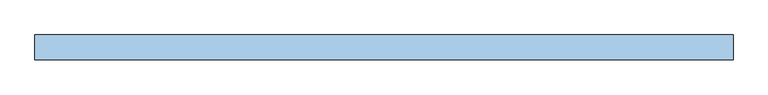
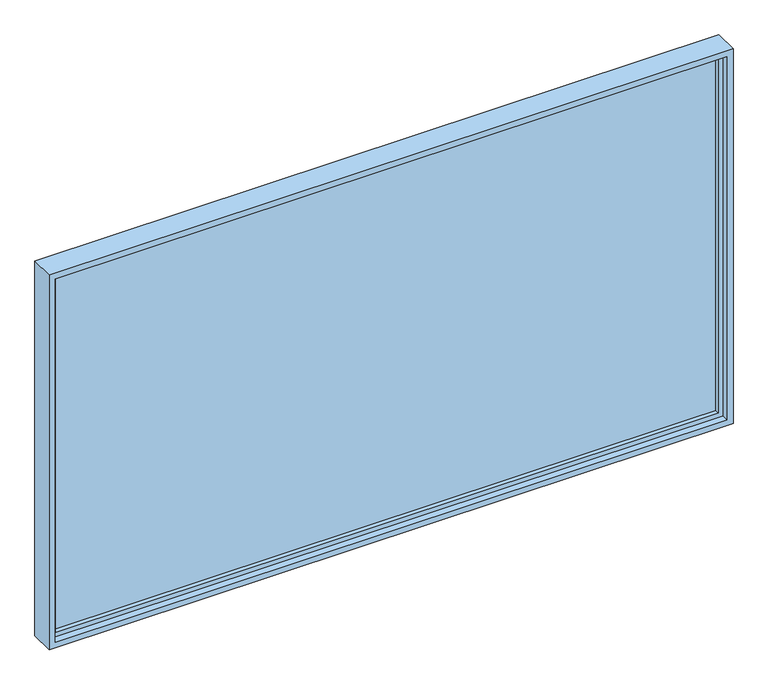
"""IFC4 building model written with IfcOpenShell, lengths in millimetres: window geometry, WD000-창 : WD000-창 4400x2550."""

from ifc_helpers import new_model, si_unit, frame, origin, place, context, project, spatial, polyline, outline, extrude, source, transform, mapped, element, save


def window_331565a2(model_context):
    return source(origin(), model_context, "Body", "SweptSolid", [
        extrude(outline(polyline([(2130.0, 6.0), (2130.0, -6.0), (-2130.0, -6.0), (-2130.0, 6.0), (2130.0, 6.0)])), frame((0.0, 0.0, 870.0), z_axis=(0.0, 0.0, 1.0), x_axis=(1.0, 0.0, 0.0)), (0.0, 0.0, 1.0), 2410.0),
        extrude(outline(polyline([(3310.0, -2160.0), (840.0, -2160.0), (840.0, 2160.0), (3310.0, 2160.0), (3310.0, -2160.0)]), holes=[polyline([(3280.0, 2130.0), (870.0, 2130.0), (870.0, -2130.0), (3280.0, -2130.0), (3280.0, 2130.0)])]), frame((0.0, -35.0, 0.0), z_axis=(0.0, 1.0, 0.0), x_axis=(0.0, 0.0, 1.0)), (0.0, 0.0, 1.0), 70.0),
        extrude(outline(polyline([(3350.0, 2200.0), (3350.0, -2200.0), (800.0, -2200.0), (800.0, 2200.0), (3350.0, 2200.0)]), holes=[polyline([(3310.0, 2160.0), (840.0, 2160.0), (840.0, -2160.0), (3310.0, -2160.0), (3310.0, 2160.0)])]), frame((0.0, -78.6430223, 0.0), z_axis=(0.0, 1.0, 0.0), x_axis=(0.0, 0.0, 1.0)), (0.0, 0.0, 1.0), 157.2860446),
    ])


if __name__ == "__main__":
    model = new_model("IFC4")
    model_context = context("Model", 3, world=origin())
    ifc_project = project(units=[si_unit("LENGTHUNIT", "METRE", prefix="MILLI")], contexts=[model_context])
    site = spatial("IfcSite", under=ifc_project)
    building = spatial("IfcBuilding", under=site)
    placement = place(None, origin())
    window_shape = window_331565a2(model_context)
    element("IfcWindow", 1, ObjectType="WD000-창 : WD000-창 4400x2550", at=placement, inside=building, context=model_context, shape_type="MappedRepresentation", body=[
        mapped(window_shape, transform((0.0, 0.0, 0.0), x_axis=(1.0, 0.0, 0.0), y_axis=(0.0, 1.0, 0.0), z_axis=(0.0, 0.0, 1.0))),
    ])
    save(model, "model.ifc")
